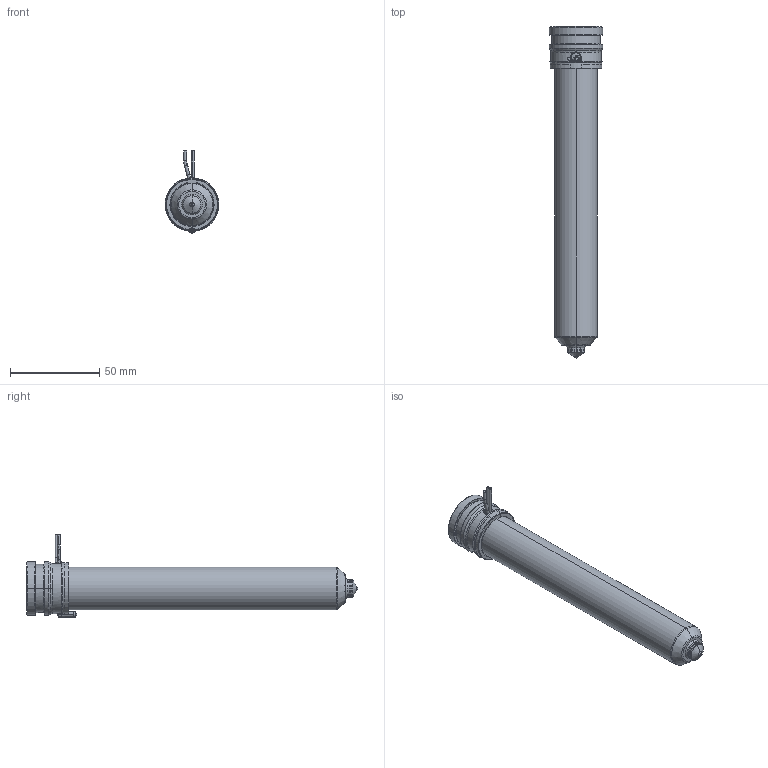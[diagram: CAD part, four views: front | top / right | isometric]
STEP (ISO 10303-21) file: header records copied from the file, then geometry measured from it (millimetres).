
FILE_DESCRIPTION((''),'2;1');
FILE_NAME('MPN-10-29-TS10-166-A','2026-02-05T12:33:46',('UPTIO'),('Thermoplay S.p.A.'),'CREO PARAMETRIC BY PTC INC, 2023494','CREO PARAMETRIC BY PTC INC, 2023494','');
FILE_SCHEMA(('CONFIG_CONTROL_DESIGN','SHAPE_APPEARANCE_LAYERS_GROUPS'));
Length unit declared in the file: millimetre
Products named in the file (1): MPN-10-29-TS10-166-A
Bounding box: 30 x 186 x 46 mm (x, y, z)
Volume: 57948.3 mm3; surface area: 58509.2 mm2
Topology: 2 solids, 3 shells, 552 faces, 1455 edges, 898 vertices
Faces by surface type: cylinder 180, plane 145, bspline 78, torus 68, cone 66, sphere 11, extrusion 4
Entity records: 31300 total; most frequent: CARTESIAN_POINT 14921, ORIENTED_EDGE 2894, DIRECTION 2651, EDGE_CURVE 1447, AXIS2_PLACEMENT_3D 1051, VERTEX_POINT 898, EDGE_LOOP 581, CIRCLE 580
